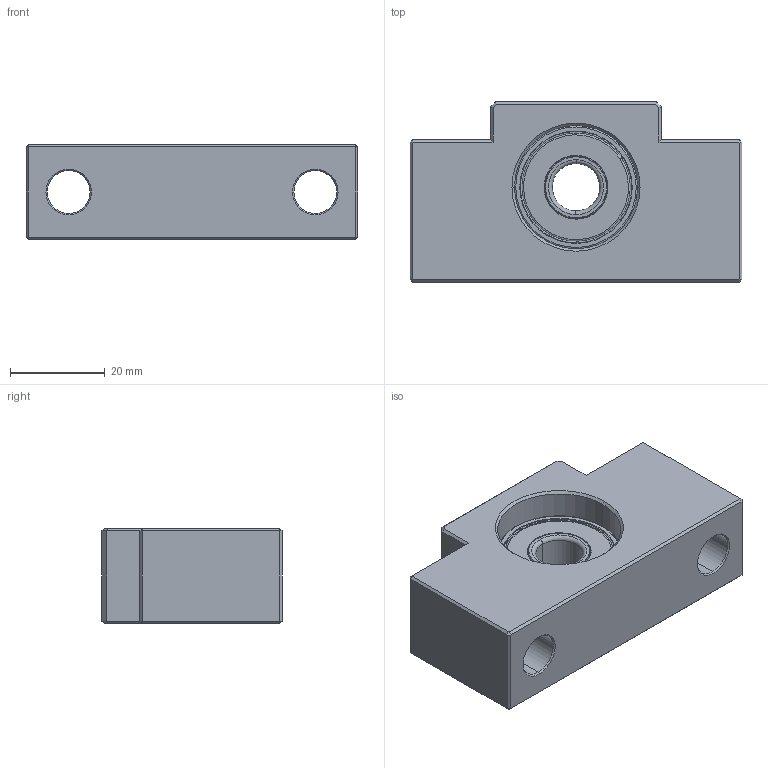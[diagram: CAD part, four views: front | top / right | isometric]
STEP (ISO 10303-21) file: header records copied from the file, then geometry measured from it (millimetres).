
FILE_DESCRIPTION (( 'STEP AP203' ), '1' );
FILE_NAME ('LF12²Õ¦X¥ó.STEP', '2010-12-20T07:00:59', ( '' ), ( '' ), 'SwSTEP 2.0', 'SolidWorks 2008', '' );
FILE_SCHEMA (( 'CONFIG_CONTROL_DESIGN' ));
Length unit declared in the file: millimetre
Products named in the file (1): LF12組合件
Bounding box: 70 x 38 x 20 mm (x, y, z)
Volume: 33935.4 mm3; surface area: 15234 mm2
Topology: 13 solids, 13 shells, 194 faces, 428 edges, 250 vertices
Faces by surface type: torus 66, plane 58, cylinder 38, cone 16, sphere 16
Entity records: 5105 total; most frequent: DIRECTION 1014, CARTESIAN_POINT 809, ORIENTED_EDGE 776, AXIS2_PLACEMENT_3D 431, EDGE_CURVE 388, CIRCLE 236, VERTEX_POINT 226, EDGE_LOOP 214
